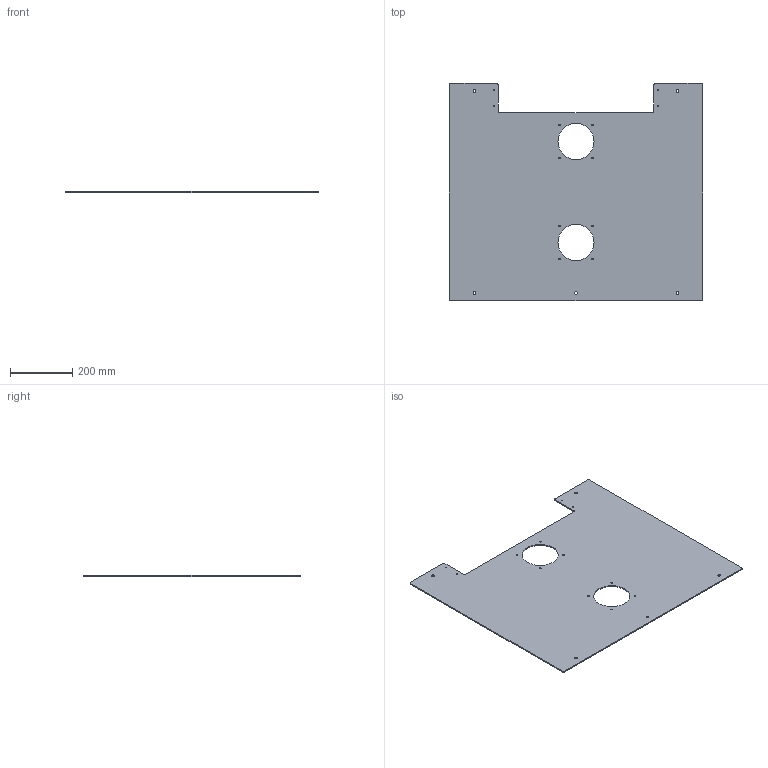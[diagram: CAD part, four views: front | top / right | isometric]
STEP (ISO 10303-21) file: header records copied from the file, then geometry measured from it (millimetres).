
FILE_DESCRIPTION(/* description */ (''),/* implementation_level */ '2;1');
FILE_NAME(/* name */ 'Back Panel V2.step',/* time_stamp */ '2026-05-15T12:41:47-07:00',/* author */ (''),/* organization */ (''),/* preprocessor_version */ 'ST-DEVELOPER v20.1',/* originating_system */ 'Autodesk Translation Framework v15.8.0.0',/* authorisation */ '');
FILE_SCHEMA (('AUTOMOTIVE_DESIGN { 1 0 10303 214 3 1 1 }'));
Length unit declared in the file: millimetre
Products named in the file (1): Back Panel V2
Bounding box: 812.8 x 698.5 x 3.67 mm (x, y, z)
Volume: 1829887.8 mm3; surface area: 1012721 mm2
Topology: 1 solids, 1 shells, 37 faces, 105 edges, 70 vertices
Faces by surface type: cylinder 27, plane 10
Full cylindrical faces by diameter (mm): 3.332 x4, 5 x8, 8.5 x5, 116 x2
Entity records: 1342 total; most frequent: DIRECTION 235, CARTESIAN_POINT 213, ORIENTED_EDGE 210, EDGE_CURVE 105, AXIS2_PLACEMENT_3D 92, EDGE_LOOP 75, VERTEX_POINT 70, CIRCLE 54
